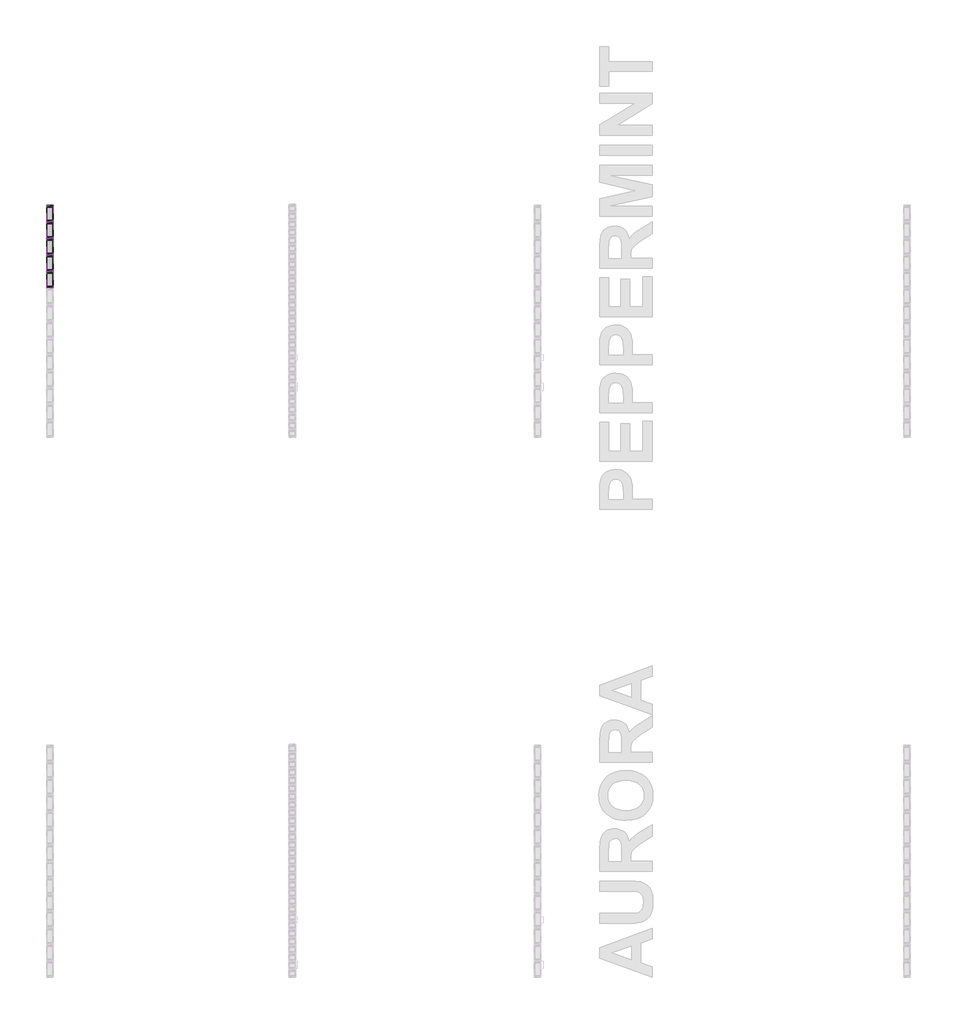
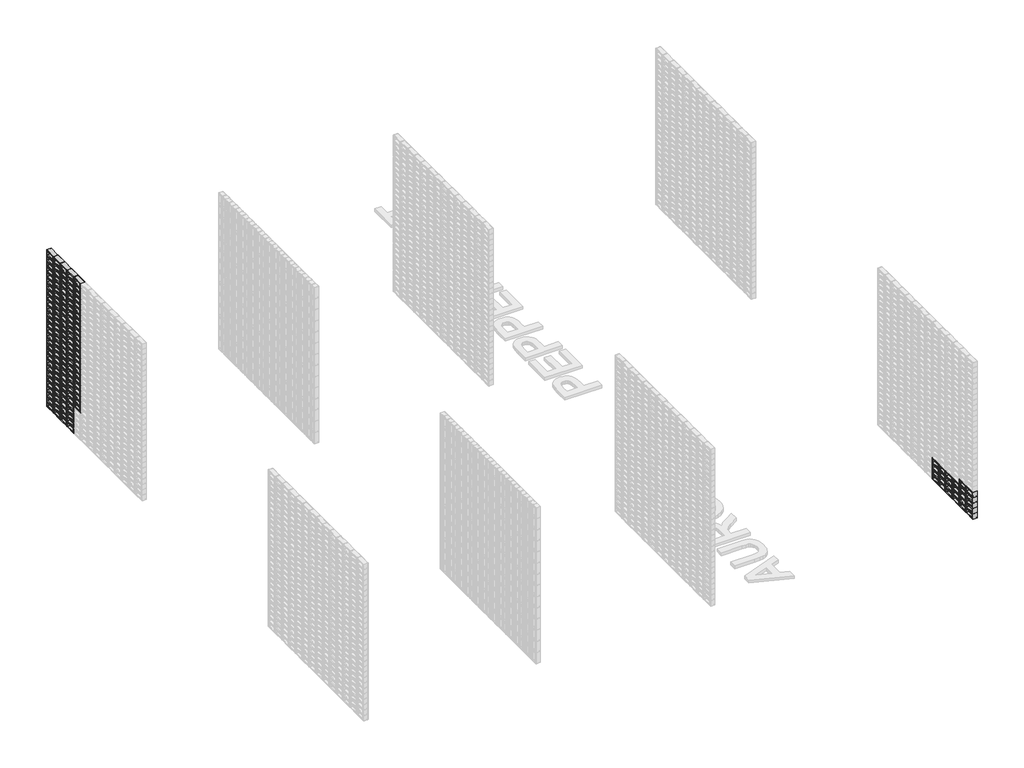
# One storey, part 5 of 59: 166 plates.
"""IFC4 building model written with IfcOpenShell, lengths in millimetres."""

from ifc_helpers import new_model, si_unit, origin, place, context, project, spatial, transform, mapped, element, save
from components import plate_12236348

model = new_model("IFC4")

# Units and contexts
model_context = context("Model", 3, world=origin())
ifc_project = project(units=[si_unit("LENGTHUNIT", "METRE", prefix="MILLI")], contexts=[model_context])

# Site, building, storey
site = spatial("IfcSite", under=ifc_project)
building = spatial("IfcBuilding", under=site)
storey = spatial("IfcBuildingStorey", under=building, Name="PORTOBELLO - SHOWROOM", Elevation=0.0)

# Plates
placement = place(None, origin())
plate_shape = plate_12236348(model_context)
element("IfcPlate", 1, ObjectType="PBSHOP - ON FIRE PEPPERMINT 9X19 (PAINEL CORTINA) : PEPPERMINT", at=placement, inside=storey, context=model_context, shape_type="MappedRepresentation", body=[
    mapped(plate_shape, transform((-33705.5633853, -937.9877273, 470.0), x_axis=(0.0, 1.0, 0.0), y_axis=(-1.0, 0.0, 0.0), z_axis=(0.0, 0.0, 1.0))),
])
element("IfcPlate", 2, ObjectType="PBSHOP - ON FIRE PEPPERMINT 9X19 (PAINEL CORTINA) : PEPPERMINT", at=placement, inside=storey, context=model_context, shape_type="MappedRepresentation", body=[
    mapped(plate_shape, transform((-33705.5633853, -937.9877273, 564.0), x_axis=(0.0, 1.0, 0.0), y_axis=(-1.0, 0.0, 0.0), z_axis=(0.0, 0.0, 1.0))),
])
element("IfcPlate", 3, ObjectType="PBSHOP - ON FIRE PEPPERMINT 9X19 (PAINEL CORTINA) : PEPPERMINT", at=placement, inside=storey, context=model_context, shape_type="MappedRepresentation", body=[
    mapped(plate_shape, transform((-33705.5633853, -937.9877273, 658.0), x_axis=(0.0, 1.0, 0.0), y_axis=(-1.0, 0.0, 0.0), z_axis=(0.0, 0.0, 1.0))),
])
element("IfcPlate", 4, ObjectType="PBSHOP - ON FIRE PEPPERMINT 9X19 (PAINEL CORTINA) : PEPPERMINT", at=placement, inside=storey, context=model_context, shape_type="MappedRepresentation", body=[
    mapped(plate_shape, transform((-33705.5633853, -937.9877273, 752.0), x_axis=(0.0, 1.0, 0.0), y_axis=(-1.0, 0.0, 0.0), z_axis=(0.0, 0.0, 1.0))),
])
element("IfcPlate", 5, ObjectType="PBSHOP - ON FIRE PEPPERMINT 9X19 (PAINEL CORTINA) : PEPPERMINT", at=placement, inside=storey, context=model_context, shape_type="MappedRepresentation", body=[
    mapped(plate_shape, transform((-33705.5633853, -743.9877273, 0.0), x_axis=(0.0, 1.0, 0.0), y_axis=(-1.0, 0.0, 0.0), z_axis=(0.0, 0.0, 1.0))),
])
element("IfcPlate", 6, ObjectType="PBSHOP - ON FIRE PEPPERMINT 9X19 (PAINEL CORTINA) : PEPPERMINT", at=placement, inside=storey, context=model_context, shape_type="MappedRepresentation", body=[
    mapped(plate_shape, transform((-33705.5633853, -743.9877273, 94.0), x_axis=(0.0, 1.0, 0.0), y_axis=(-1.0, 0.0, 0.0), z_axis=(0.0, 0.0, 1.0))),
])
element("IfcPlate", 7, ObjectType="PBSHOP - ON FIRE PEPPERMINT 9X19 (PAINEL CORTINA) : PEPPERMINT", at=placement, inside=storey, context=model_context, shape_type="MappedRepresentation", body=[
    mapped(plate_shape, transform((-33705.5633853, -743.9877273, 188.0), x_axis=(0.0, 1.0, 0.0), y_axis=(-1.0, 0.0, 0.0), z_axis=(0.0, 0.0, 1.0))),
])
element("IfcPlate", 8, ObjectType="PBSHOP - ON FIRE PEPPERMINT 9X19 (PAINEL CORTINA) : PEPPERMINT", at=placement, inside=storey, context=model_context, shape_type="MappedRepresentation", body=[
    mapped(plate_shape, transform((-33705.5633853, -743.9877273, 282.0), x_axis=(0.0, 1.0, 0.0), y_axis=(-1.0, 0.0, 0.0), z_axis=(0.0, 0.0, 1.0))),
])
element("IfcPlate", 9, ObjectType="PBSHOP - ON FIRE PEPPERMINT 9X19 (PAINEL CORTINA) : PEPPERMINT", at=placement, inside=storey, context=model_context, shape_type="MappedRepresentation", body=[
    mapped(plate_shape, transform((-33705.5633853, -743.9877273, 376.0), x_axis=(0.0, 1.0, 0.0), y_axis=(-1.0, 0.0, 0.0), z_axis=(0.0, 0.0, 1.0))),
])
element("IfcPlate", 10, ObjectType="PBSHOP - ON FIRE PEPPERMINT 9X19 (PAINEL CORTINA) : PEPPERMINT", at=placement, inside=storey, context=model_context, shape_type="MappedRepresentation", body=[
    mapped(plate_shape, transform((-33705.5633853, -743.9877273, 470.0), x_axis=(0.0, 1.0, 0.0), y_axis=(-1.0, 0.0, 0.0), z_axis=(0.0, 0.0, 1.0))),
])
element("IfcPlate", 11, ObjectType="PBSHOP - ON FIRE PEPPERMINT 9X19 (PAINEL CORTINA) : PEPPERMINT", at=placement, inside=storey, context=model_context, shape_type="MappedRepresentation", body=[
    mapped(plate_shape, transform((-33705.5633853, -743.9877273, 564.0), x_axis=(0.0, 1.0, 0.0), y_axis=(-1.0, 0.0, 0.0), z_axis=(0.0, 0.0, 1.0))),
])
element("IfcPlate", 12, ObjectType="PBSHOP - ON FIRE PEPPERMINT 9X19 (PAINEL CORTINA) : PEPPERMINT", at=placement, inside=storey, context=model_context, shape_type="MappedRepresentation", body=[
    mapped(plate_shape, transform((-33705.5633853, -743.9877273, 658.0), x_axis=(0.0, 1.0, 0.0), y_axis=(-1.0, 0.0, 0.0), z_axis=(0.0, 0.0, 1.0))),
])
element("IfcPlate", 13, ObjectType="PBSHOP - ON FIRE PEPPERMINT 9X19 (PAINEL CORTINA) : PEPPERMINT", at=placement, inside=storey, context=model_context, shape_type="MappedRepresentation", body=[
    mapped(plate_shape, transform((-33705.5633853, -743.9877273, 752.0), x_axis=(0.0, 1.0, 0.0), y_axis=(-1.0, 0.0, 0.0), z_axis=(0.0, 0.0, 1.0))),
])
element("IfcPlate", 14, ObjectType="PBSHOP - ON FIRE PEPPERMINT 9X19 (PAINEL CORTINA) : PEPPERMINT", at=placement, inside=storey, context=model_context, shape_type="MappedRepresentation", body=[
    mapped(plate_shape, transform((-33705.5633853, -549.9877273, 0.0), x_axis=(0.0, 1.0, 0.0), y_axis=(-1.0, 0.0, 0.0), z_axis=(0.0, 0.0, 1.0))),
])
element("IfcPlate", 15, ObjectType="PBSHOP - ON FIRE PEPPERMINT 9X19 (PAINEL CORTINA) : PEPPERMINT", at=placement, inside=storey, context=model_context, shape_type="MappedRepresentation", body=[
    mapped(plate_shape, transform((-33705.5633853, -549.9877273, 94.0), x_axis=(0.0, 1.0, 0.0), y_axis=(-1.0, 0.0, 0.0), z_axis=(0.0, 0.0, 1.0))),
])
element("IfcPlate", 16, ObjectType="PBSHOP - ON FIRE PEPPERMINT 9X19 (PAINEL CORTINA) : PEPPERMINT", at=placement, inside=storey, context=model_context, shape_type="MappedRepresentation", body=[
    mapped(plate_shape, transform((-33705.5633853, -549.9877273, 188.0), x_axis=(0.0, 1.0, 0.0), y_axis=(-1.0, 0.0, 0.0), z_axis=(0.0, 0.0, 1.0))),
])
element("IfcPlate", 17, ObjectType="PBSHOP - ON FIRE PEPPERMINT 9X19 (PAINEL CORTINA) : PEPPERMINT", at=placement, inside=storey, context=model_context, shape_type="MappedRepresentation", body=[
    mapped(plate_shape, transform((-33705.5633853, -549.9877273, 282.0), x_axis=(0.0, 1.0, 0.0), y_axis=(-1.0, 0.0, 0.0), z_axis=(0.0, 0.0, 1.0))),
])
element("IfcPlate", 18, ObjectType="PBSHOP - ON FIRE PEPPERMINT 9X19 (PAINEL CORTINA) : PEPPERMINT", at=placement, inside=storey, context=model_context, shape_type="MappedRepresentation", body=[
    mapped(plate_shape, transform((-33705.5633853, -549.9877273, 376.0), x_axis=(0.0, 1.0, 0.0), y_axis=(-1.0, 0.0, 0.0), z_axis=(0.0, 0.0, 1.0))),
])
element("IfcPlate", 19, ObjectType="PBSHOP - ON FIRE PEPPERMINT 9X19 (PAINEL CORTINA) : PEPPERMINT", at=placement, inside=storey, context=model_context, shape_type="MappedRepresentation", body=[
    mapped(plate_shape, transform((-33705.5633853, -549.9877273, 470.0), x_axis=(0.0, 1.0, 0.0), y_axis=(-1.0, 0.0, 0.0), z_axis=(0.0, 0.0, 1.0))),
])
element("IfcPlate", 20, ObjectType="PBSHOP - ON FIRE PEPPERMINT 9X19 (PAINEL CORTINA) : PEPPERMINT", at=placement, inside=storey, context=model_context, shape_type="MappedRepresentation", body=[
    mapped(plate_shape, transform((-33705.5633853, -549.9877273, 564.0), x_axis=(0.0, 1.0, 0.0), y_axis=(-1.0, 0.0, 0.0), z_axis=(0.0, 0.0, 1.0))),
])
element("IfcPlate", 21, ObjectType="PBSHOP - ON FIRE PEPPERMINT 9X19 (PAINEL CORTINA) : PEPPERMINT", at=placement, inside=storey, context=model_context, shape_type="MappedRepresentation", body=[
    mapped(plate_shape, transform((-33705.5633853, -549.9877273, 658.0), x_axis=(0.0, 1.0, 0.0), y_axis=(-1.0, 0.0, 0.0), z_axis=(0.0, 0.0, 1.0))),
])
element("IfcPlate", 22, ObjectType="PBSHOP - ON FIRE PEPPERMINT 9X19 (PAINEL CORTINA) : PEPPERMINT", at=placement, inside=storey, context=model_context, shape_type="MappedRepresentation", body=[
    mapped(plate_shape, transform((-33705.5633853, -549.9877273, 752.0), x_axis=(0.0, 1.0, 0.0), y_axis=(-1.0, 0.0, 0.0), z_axis=(0.0, 0.0, 1.0))),
])
element("IfcPlate", 23, ObjectType="PBSHOP - ON FIRE PEPPERMINT 9X19 (PAINEL CORTINA) : PEPPERMINT", at=placement, inside=storey, context=model_context, shape_type="MappedRepresentation", body=[
    mapped(plate_shape, transform((-33705.5633853, -355.9877273, 0.0), x_axis=(0.0, 1.0, 0.0), y_axis=(-1.0, 0.0, 0.0), z_axis=(0.0, 0.0, 1.0))),
])
element("IfcPlate", 24, ObjectType="PBSHOP - ON FIRE PEPPERMINT 9X19 (PAINEL CORTINA) : PEPPERMINT", at=placement, inside=storey, context=model_context, shape_type="MappedRepresentation", body=[
    mapped(plate_shape, transform((-33705.5633853, -355.9877273, 94.0), x_axis=(0.0, 1.0, 0.0), y_axis=(-1.0, 0.0, 0.0), z_axis=(0.0, 0.0, 1.0))),
])
element("IfcPlate", 25, ObjectType="PBSHOP - ON FIRE PEPPERMINT 9X19 (PAINEL CORTINA) : PEPPERMINT", at=placement, inside=storey, context=model_context, shape_type="MappedRepresentation", body=[
    mapped(plate_shape, transform((-33705.5633853, -355.9877273, 188.0), x_axis=(0.0, 1.0, 0.0), y_axis=(-1.0, 0.0, 0.0), z_axis=(0.0, 0.0, 1.0))),
])
element("IfcPlate", 26, ObjectType="PBSHOP - ON FIRE PEPPERMINT 9X19 (PAINEL CORTINA) : PEPPERMINT", at=placement, inside=storey, context=model_context, shape_type="MappedRepresentation", body=[
    mapped(plate_shape, transform((-33705.5633853, -355.9877273, 282.0), x_axis=(0.0, 1.0, 0.0), y_axis=(-1.0, 0.0, 0.0), z_axis=(0.0, 0.0, 1.0))),
])
element("IfcPlate", 27, ObjectType="PBSHOP - ON FIRE PEPPERMINT 9X19 (PAINEL CORTINA) : PEPPERMINT", at=placement, inside=storey, context=model_context, shape_type="MappedRepresentation", body=[
    mapped(plate_shape, transform((-33705.5633853, -355.9877273, 376.0), x_axis=(0.0, 1.0, 0.0), y_axis=(-1.0, 0.0, 0.0), z_axis=(0.0, 0.0, 1.0))),
])
element("IfcPlate", 28, ObjectType="PBSHOP - ON FIRE PEPPERMINT 9X19 (PAINEL CORTINA) : PEPPERMINT", at=placement, inside=storey, context=model_context, shape_type="MappedRepresentation", body=[
    mapped(plate_shape, transform((-33705.5633853, -355.9877273, 470.0), x_axis=(0.0, 1.0, 0.0), y_axis=(-1.0, 0.0, 0.0), z_axis=(0.0, 0.0, 1.0))),
])
element("IfcPlate", 29, ObjectType="PBSHOP - ON FIRE PEPPERMINT 9X19 (PAINEL CORTINA) : PEPPERMINT", at=placement, inside=storey, context=model_context, shape_type="MappedRepresentation", body=[
    mapped(plate_shape, transform((-33705.5633853, -355.9877273, 564.0), x_axis=(0.0, 1.0, 0.0), y_axis=(-1.0, 0.0, 0.0), z_axis=(0.0, 0.0, 1.0))),
])
element("IfcPlate", 30, ObjectType="PBSHOP - ON FIRE PEPPERMINT 9X19 (PAINEL CORTINA) : PEPPERMINT", at=placement, inside=storey, context=model_context, shape_type="MappedRepresentation", body=[
    mapped(plate_shape, transform((-33705.5633853, -355.9877273, 658.0), x_axis=(0.0, 1.0, 0.0), y_axis=(-1.0, 0.0, 0.0), z_axis=(0.0, 0.0, 1.0))),
])
element("IfcPlate", 31, ObjectType="PBSHOP - ON FIRE PEPPERMINT 9X19 (PAINEL CORTINA) : PEPPERMINT", at=placement, inside=storey, context=model_context, shape_type="MappedRepresentation", body=[
    mapped(plate_shape, transform((-33705.5633853, -355.9877273, 752.0), x_axis=(0.0, 1.0, 0.0), y_axis=(-1.0, 0.0, 0.0), z_axis=(0.0, 0.0, 1.0))),
])
element("IfcPlate", 32, ObjectType="PBSHOP - ON FIRE PEPPERMINT 9X19 (PAINEL CORTINA) : PEPPERMINT", at=placement, inside=storey, context=model_context, shape_type="MappedRepresentation", body=[
    mapped(plate_shape, transform((-33705.5633853, -937.9877273, 846.0), x_axis=(0.0, 1.0, 0.0), y_axis=(-1.0, 0.0, 0.0), z_axis=(0.0, 0.0, 1.0))),
])
element("IfcPlate", 33, ObjectType="PBSHOP - ON FIRE PEPPERMINT 9X19 (PAINEL CORTINA) : PEPPERMINT", at=placement, inside=storey, context=model_context, shape_type="MappedRepresentation", body=[
    mapped(plate_shape, transform((-33705.5633853, -743.9877273, 846.0), x_axis=(0.0, 1.0, 0.0), y_axis=(-1.0, 0.0, 0.0), z_axis=(0.0, 0.0, 1.0))),
])
element("IfcPlate", 34, ObjectType="PBSHOP - ON FIRE PEPPERMINT 9X19 (PAINEL CORTINA) : PEPPERMINT", at=placement, inside=storey, context=model_context, shape_type="MappedRepresentation", body=[
    mapped(plate_shape, transform((-33705.5633853, -549.9877273, 846.0), x_axis=(0.0, 1.0, 0.0), y_axis=(-1.0, 0.0, 0.0), z_axis=(0.0, 0.0, 1.0))),
])
element("IfcPlate", 35, ObjectType="PBSHOP - ON FIRE PEPPERMINT 9X19 (PAINEL CORTINA) : PEPPERMINT", at=placement, inside=storey, context=model_context, shape_type="MappedRepresentation", body=[
    mapped(plate_shape, transform((-33705.5633853, -355.9877273, 846.0), x_axis=(0.0, 1.0, 0.0), y_axis=(-1.0, 0.0, 0.0), z_axis=(0.0, 0.0, 1.0))),
])
element("IfcPlate", 36, ObjectType="PBSHOP - ON FIRE PEPPERMINT 9X19 (PAINEL CORTINA) : PEPPERMINT", at=placement, inside=storey, context=model_context, shape_type="MappedRepresentation", body=[
    mapped(plate_shape, transform((-33705.5633853, -937.9877273, 940.0), x_axis=(0.0, 1.0, 0.0), y_axis=(-1.0, 0.0, 0.0), z_axis=(0.0, 0.0, 1.0))),
])
element("IfcPlate", 37, ObjectType="PBSHOP - ON FIRE PEPPERMINT 9X19 (PAINEL CORTINA) : PEPPERMINT", at=placement, inside=storey, context=model_context, shape_type="MappedRepresentation", body=[
    mapped(plate_shape, transform((-33705.5633853, -743.9877273, 940.0), x_axis=(0.0, 1.0, 0.0), y_axis=(-1.0, 0.0, 0.0), z_axis=(0.0, 0.0, 1.0))),
])
element("IfcPlate", 38, ObjectType="PBSHOP - ON FIRE PEPPERMINT 9X19 (PAINEL CORTINA) : PEPPERMINT", at=placement, inside=storey, context=model_context, shape_type="MappedRepresentation", body=[
    mapped(plate_shape, transform((-33705.5633853, -549.9877273, 940.0), x_axis=(0.0, 1.0, 0.0), y_axis=(-1.0, 0.0, 0.0), z_axis=(0.0, 0.0, 1.0))),
])
element("IfcPlate", 39, ObjectType="PBSHOP - ON FIRE PEPPERMINT 9X19 (PAINEL CORTINA) : PEPPERMINT", at=placement, inside=storey, context=model_context, shape_type="MappedRepresentation", body=[
    mapped(plate_shape, transform((-33705.5633853, -355.9877273, 940.0), x_axis=(0.0, 1.0, 0.0), y_axis=(-1.0, 0.0, 0.0), z_axis=(0.0, 0.0, 1.0))),
])
element("IfcPlate", 40, ObjectType="PBSHOP - ON FIRE PEPPERMINT 9X19 (PAINEL CORTINA) : PEPPERMINT", at=placement, inside=storey, context=model_context, shape_type="MappedRepresentation", body=[
    mapped(plate_shape, transform((-33705.5633853, -937.9877273, 1034.0), x_axis=(0.0, 1.0, 0.0), y_axis=(-1.0, 0.0, 0.0), z_axis=(0.0, 0.0, 1.0))),
])
element("IfcPlate", 41, ObjectType="PBSHOP - ON FIRE PEPPERMINT 9X19 (PAINEL CORTINA) : PEPPERMINT", at=placement, inside=storey, context=model_context, shape_type="MappedRepresentation", body=[
    mapped(plate_shape, transform((-33705.5633853, -743.9877273, 1034.0), x_axis=(0.0, 1.0, 0.0), y_axis=(-1.0, 0.0, 0.0), z_axis=(0.0, 0.0, 1.0))),
])
element("IfcPlate", 42, ObjectType="PBSHOP - ON FIRE PEPPERMINT 9X19 (PAINEL CORTINA) : PEPPERMINT", at=placement, inside=storey, context=model_context, shape_type="MappedRepresentation", body=[
    mapped(plate_shape, transform((-33705.5633853, -549.9877273, 1034.0), x_axis=(0.0, 1.0, 0.0), y_axis=(-1.0, 0.0, 0.0), z_axis=(0.0, 0.0, 1.0))),
])
element("IfcPlate", 43, ObjectType="PBSHOP - ON FIRE PEPPERMINT 9X19 (PAINEL CORTINA) : PEPPERMINT", at=placement, inside=storey, context=model_context, shape_type="MappedRepresentation", body=[
    mapped(plate_shape, transform((-33705.5633853, -355.9877273, 1034.0), x_axis=(0.0, 1.0, 0.0), y_axis=(-1.0, 0.0, 0.0), z_axis=(0.0, 0.0, 1.0))),
])
element("IfcPlate", 44, ObjectType="PBSHOP - ON FIRE PEPPERMINT 9X19 (PAINEL CORTINA) : PEPPERMINT", at=placement, inside=storey, context=model_context, shape_type="MappedRepresentation", body=[
    mapped(plate_shape, transform((-33705.5633853, -937.9877273, 1128.0), x_axis=(0.0, 1.0, 0.0), y_axis=(-1.0, 0.0, 0.0), z_axis=(0.0, 0.0, 1.0))),
])
element("IfcPlate", 45, ObjectType="PBSHOP - ON FIRE PEPPERMINT 9X19 (PAINEL CORTINA) : PEPPERMINT", at=placement, inside=storey, context=model_context, shape_type="MappedRepresentation", body=[
    mapped(plate_shape, transform((-33705.5633853, -743.9877273, 1128.0), x_axis=(0.0, 1.0, 0.0), y_axis=(-1.0, 0.0, 0.0), z_axis=(0.0, 0.0, 1.0))),
])
element("IfcPlate", 46, ObjectType="PBSHOP - ON FIRE PEPPERMINT 9X19 (PAINEL CORTINA) : PEPPERMINT", at=placement, inside=storey, context=model_context, shape_type="MappedRepresentation", body=[
    mapped(plate_shape, transform((-33705.5633853, -549.9877273, 1128.0), x_axis=(0.0, 1.0, 0.0), y_axis=(-1.0, 0.0, 0.0), z_axis=(0.0, 0.0, 1.0))),
])
element("IfcPlate", 47, ObjectType="PBSHOP - ON FIRE PEPPERMINT 9X19 (PAINEL CORTINA) : PEPPERMINT", at=placement, inside=storey, context=model_context, shape_type="MappedRepresentation", body=[
    mapped(plate_shape, transform((-33705.5633853, -355.9877273, 1128.0), x_axis=(0.0, 1.0, 0.0), y_axis=(-1.0, 0.0, 0.0), z_axis=(0.0, 0.0, 1.0))),
])
element("IfcPlate", 48, ObjectType="PBSHOP - ON FIRE PEPPERMINT 9X19 (PAINEL CORTINA) : PEPPERMINT", at=placement, inside=storey, context=model_context, shape_type="MappedRepresentation", body=[
    mapped(plate_shape, transform((-33705.5633853, -937.9877273, 1222.0), x_axis=(0.0, 1.0, 0.0), y_axis=(-1.0, 0.0, 0.0), z_axis=(0.0, 0.0, 1.0))),
])
element("IfcPlate", 49, ObjectType="PBSHOP - ON FIRE PEPPERMINT 9X19 (PAINEL CORTINA) : PEPPERMINT", at=placement, inside=storey, context=model_context, shape_type="MappedRepresentation", body=[
    mapped(plate_shape, transform((-33705.5633853, -743.9877273, 1222.0), x_axis=(0.0, 1.0, 0.0), y_axis=(-1.0, 0.0, 0.0), z_axis=(0.0, 0.0, 1.0))),
])
element("IfcPlate", 50, ObjectType="PBSHOP - ON FIRE PEPPERMINT 9X19 (PAINEL CORTINA) : PEPPERMINT", at=placement, inside=storey, context=model_context, shape_type="MappedRepresentation", body=[
    mapped(plate_shape, transform((-33705.5633853, -549.9877273, 1222.0), x_axis=(0.0, 1.0, 0.0), y_axis=(-1.0, 0.0, 0.0), z_axis=(0.0, 0.0, 1.0))),
])
element("IfcPlate", 51, ObjectType="PBSHOP - ON FIRE PEPPERMINT 9X19 (PAINEL CORTINA) : PEPPERMINT", at=placement, inside=storey, context=model_context, shape_type="MappedRepresentation", body=[
    mapped(plate_shape, transform((-33705.5633853, -355.9877273, 1222.0), x_axis=(0.0, 1.0, 0.0), y_axis=(-1.0, 0.0, 0.0), z_axis=(0.0, 0.0, 1.0))),
])
element("IfcPlate", 52, ObjectType="PBSHOP - ON FIRE PEPPERMINT 9X19 (PAINEL CORTINA) : PEPPERMINT", at=placement, inside=storey, context=model_context, shape_type="MappedRepresentation", body=[
    mapped(plate_shape, transform((-33705.5633853, -937.9877273, 1316.0), x_axis=(0.0, 1.0, 0.0), y_axis=(-1.0, 0.0, 0.0), z_axis=(0.0, 0.0, 1.0))),
])
element("IfcPlate", 53, ObjectType="PBSHOP - ON FIRE PEPPERMINT 9X19 (PAINEL CORTINA) : PEPPERMINT", at=placement, inside=storey, context=model_context, shape_type="MappedRepresentation", body=[
    mapped(plate_shape, transform((-33705.5633853, -743.9877273, 1316.0), x_axis=(0.0, 1.0, 0.0), y_axis=(-1.0, 0.0, 0.0), z_axis=(0.0, 0.0, 1.0))),
])
element("IfcPlate", 54, ObjectType="PBSHOP - ON FIRE PEPPERMINT 9X19 (PAINEL CORTINA) : PEPPERMINT", at=placement, inside=storey, context=model_context, shape_type="MappedRepresentation", body=[
    mapped(plate_shape, transform((-33705.5633853, -549.9877273, 1316.0), x_axis=(0.0, 1.0, 0.0), y_axis=(-1.0, 0.0, 0.0), z_axis=(0.0, 0.0, 1.0))),
])
element("IfcPlate", 55, ObjectType="PBSHOP - ON FIRE PEPPERMINT 9X19 (PAINEL CORTINA) : PEPPERMINT", at=placement, inside=storey, context=model_context, shape_type="MappedRepresentation", body=[
    mapped(plate_shape, transform((-33705.5633853, -355.9877273, 1316.0), x_axis=(0.0, 1.0, 0.0), y_axis=(-1.0, 0.0, 0.0), z_axis=(0.0, 0.0, 1.0))),
])
element("IfcPlate", 56, ObjectType="PBSHOP - ON FIRE PEPPERMINT 9X19 (PAINEL CORTINA) : PEPPERMINT", at=placement, inside=storey, context=model_context, shape_type="MappedRepresentation", body=[
    mapped(plate_shape, transform((-33705.5633853, -937.9877273, 1410.0), x_axis=(0.0, 1.0, 0.0), y_axis=(-1.0, 0.0, 0.0), z_axis=(0.0, 0.0, 1.0))),
])
element("IfcPlate", 57, ObjectType="PBSHOP - ON FIRE PEPPERMINT 9X19 (PAINEL CORTINA) : PEPPERMINT", at=placement, inside=storey, context=model_context, shape_type="MappedRepresentation", body=[
    mapped(plate_shape, transform((-33705.5633853, -743.9877273, 1410.0), x_axis=(0.0, 1.0, 0.0), y_axis=(-1.0, 0.0, 0.0), z_axis=(0.0, 0.0, 1.0))),
])
element("IfcPlate", 58, ObjectType="PBSHOP - ON FIRE PEPPERMINT 9X19 (PAINEL CORTINA) : PEPPERMINT", at=placement, inside=storey, context=model_context, shape_type="MappedRepresentation", body=[
    mapped(plate_shape, transform((-33705.5633853, -549.9877273, 1410.0), x_axis=(0.0, 1.0, 0.0), y_axis=(-1.0, 0.0, 0.0), z_axis=(0.0, 0.0, 1.0))),
])
element("IfcPlate", 59, ObjectType="PBSHOP - ON FIRE PEPPERMINT 9X19 (PAINEL CORTINA) : PEPPERMINT", at=placement, inside=storey, context=model_context, shape_type="MappedRepresentation", body=[
    mapped(plate_shape, transform((-33705.5633853, -355.9877273, 1410.0), x_axis=(0.0, 1.0, 0.0), y_axis=(-1.0, 0.0, 0.0), z_axis=(0.0, 0.0, 1.0))),
])
element("IfcPlate", 60, ObjectType="PBSHOP - ON FIRE PEPPERMINT 9X19 (PAINEL CORTINA) : PEPPERMINT", at=placement, inside=storey, context=model_context, shape_type="MappedRepresentation", body=[
    mapped(plate_shape, transform((-33705.5633853, -937.9877273, 1504.0), x_axis=(0.0, 1.0, 0.0), y_axis=(-1.0, 0.0, 0.0), z_axis=(0.0, 0.0, 1.0))),
])
element("IfcPlate", 61, ObjectType="PBSHOP - ON FIRE PEPPERMINT 9X19 (PAINEL CORTINA) : PEPPERMINT", at=placement, inside=storey, context=model_context, shape_type="MappedRepresentation", body=[
    mapped(plate_shape, transform((-33705.5633853, -743.9877273, 1504.0), x_axis=(0.0, 1.0, 0.0), y_axis=(-1.0, 0.0, 0.0), z_axis=(0.0, 0.0, 1.0))),
])
element("IfcPlate", 62, ObjectType="PBSHOP - ON FIRE PEPPERMINT 9X19 (PAINEL CORTINA) : PEPPERMINT", at=placement, inside=storey, context=model_context, shape_type="MappedRepresentation", body=[
    mapped(plate_shape, transform((-33705.5633853, -549.9877273, 1504.0), x_axis=(0.0, 1.0, 0.0), y_axis=(-1.0, 0.0, 0.0), z_axis=(0.0, 0.0, 1.0))),
])
element("IfcPlate", 63, ObjectType="PBSHOP - ON FIRE PEPPERMINT 9X19 (PAINEL CORTINA) : PEPPERMINT", at=placement, inside=storey, context=model_context, shape_type="MappedRepresentation", body=[
    mapped(plate_shape, transform((-33705.5633853, -355.9877273, 1504.0), x_axis=(0.0, 1.0, 0.0), y_axis=(-1.0, 0.0, 0.0), z_axis=(0.0, 0.0, 1.0))),
])
element("IfcPlate", 64, ObjectType="PBSHOP - ON FIRE PEPPERMINT 9X19 (PAINEL CORTINA) : PEPPERMINT", at=placement, inside=storey, context=model_context, shape_type="MappedRepresentation", body=[
    mapped(plate_shape, transform((-33705.5633853, -937.9877273, 1598.0), x_axis=(0.0, 1.0, 0.0), y_axis=(-1.0, 0.0, 0.0), z_axis=(0.0, 0.0, 1.0))),
])
element("IfcPlate", 65, ObjectType="PBSHOP - ON FIRE PEPPERMINT 9X19 (PAINEL CORTINA) : PEPPERMINT", at=placement, inside=storey, context=model_context, shape_type="MappedRepresentation", body=[
    mapped(plate_shape, transform((-33705.5633853, -743.9877273, 1598.0), x_axis=(0.0, 1.0, 0.0), y_axis=(-1.0, 0.0, 0.0), z_axis=(0.0, 0.0, 1.0))),
])
element("IfcPlate", 66, ObjectType="PBSHOP - ON FIRE PEPPERMINT 9X19 (PAINEL CORTINA) : PEPPERMINT", at=placement, inside=storey, context=model_context, shape_type="MappedRepresentation", body=[
    mapped(plate_shape, transform((-33705.5633853, -549.9877273, 1598.0), x_axis=(0.0, 1.0, 0.0), y_axis=(-1.0, 0.0, 0.0), z_axis=(0.0, 0.0, 1.0))),
])
element("IfcPlate", 67, ObjectType="PBSHOP - ON FIRE PEPPERMINT 9X19 (PAINEL CORTINA) : PEPPERMINT", at=placement, inside=storey, context=model_context, shape_type="MappedRepresentation", body=[
    mapped(plate_shape, transform((-33705.5633853, -355.9877273, 1598.0), x_axis=(0.0, 1.0, 0.0), y_axis=(-1.0, 0.0, 0.0), z_axis=(0.0, 0.0, 1.0))),
])
element("IfcPlate", 68, ObjectType="PBSHOP - ON FIRE PEPPERMINT 9X19 (PAINEL CORTINA) : PEPPERMINT", at=placement, inside=storey, context=model_context, shape_type="MappedRepresentation", body=[
    mapped(plate_shape, transform((-33705.5633853, -937.9877273, 1692.0), x_axis=(0.0, 1.0, 0.0), y_axis=(-1.0, 0.0, 0.0), z_axis=(0.0, 0.0, 1.0))),
])
element("IfcPlate", 69, ObjectType="PBSHOP - ON FIRE PEPPERMINT 9X19 (PAINEL CORTINA) : PEPPERMINT", at=placement, inside=storey, context=model_context, shape_type="MappedRepresentation", body=[
    mapped(plate_shape, transform((-33705.5633853, -743.9877273, 1692.0), x_axis=(0.0, 1.0, 0.0), y_axis=(-1.0, 0.0, 0.0), z_axis=(0.0, 0.0, 1.0))),
])
element("IfcPlate", 70, ObjectType="PBSHOP - ON FIRE PEPPERMINT 9X19 (PAINEL CORTINA) : PEPPERMINT", at=placement, inside=storey, context=model_context, shape_type="MappedRepresentation", body=[
    mapped(plate_shape, transform((-33705.5633853, -549.9877273, 1692.0), x_axis=(0.0, 1.0, 0.0), y_axis=(-1.0, 0.0, 0.0), z_axis=(0.0, 0.0, 1.0))),
])
element("IfcPlate", 71, ObjectType="PBSHOP - ON FIRE PEPPERMINT 9X19 (PAINEL CORTINA) : PEPPERMINT", at=placement, inside=storey, context=model_context, shape_type="MappedRepresentation", body=[
    mapped(plate_shape, transform((-33705.5633853, -355.9877273, 1692.0), x_axis=(0.0, 1.0, 0.0), y_axis=(-1.0, 0.0, 0.0), z_axis=(0.0, 0.0, 1.0))),
])
element("IfcPlate", 72, ObjectType="PBSHOP - ON FIRE PEPPERMINT 9X19 (PAINEL CORTINA) : PEPPERMINT", at=placement, inside=storey, context=model_context, shape_type="MappedRepresentation", body=[
    mapped(plate_shape, transform((-33705.5633853, -937.9877273, 1786.0), x_axis=(0.0, 1.0, 0.0), y_axis=(-1.0, 0.0, 0.0), z_axis=(0.0, 0.0, 1.0))),
])
element("IfcPlate", 73, ObjectType="PBSHOP - ON FIRE PEPPERMINT 9X19 (PAINEL CORTINA) : PEPPERMINT", at=placement, inside=storey, context=model_context, shape_type="MappedRepresentation", body=[
    mapped(plate_shape, transform((-33705.5633853, -743.9877273, 1786.0), x_axis=(0.0, 1.0, 0.0), y_axis=(-1.0, 0.0, 0.0), z_axis=(0.0, 0.0, 1.0))),
])
element("IfcPlate", 74, ObjectType="PBSHOP - ON FIRE PEPPERMINT 9X19 (PAINEL CORTINA) : PEPPERMINT", at=placement, inside=storey, context=model_context, shape_type="MappedRepresentation", body=[
    mapped(plate_shape, transform((-33705.5633853, -549.9877273, 1786.0), x_axis=(0.0, 1.0, 0.0), y_axis=(-1.0, 0.0, 0.0), z_axis=(0.0, 0.0, 1.0))),
])
element("IfcPlate", 75, ObjectType="PBSHOP - ON FIRE PEPPERMINT 9X19 (PAINEL CORTINA) : PEPPERMINT", at=placement, inside=storey, context=model_context, shape_type="MappedRepresentation", body=[
    mapped(plate_shape, transform((-33705.5633853, -355.9877273, 1786.0), x_axis=(0.0, 1.0, 0.0), y_axis=(-1.0, 0.0, 0.0), z_axis=(0.0, 0.0, 1.0))),
])
element("IfcPlate", 76, ObjectType="PBSHOP - ON FIRE PEPPERMINT 9X19 (PAINEL CORTINA) : PEPPERMINT", at=placement, inside=storey, context=model_context, shape_type="MappedRepresentation", body=[
    mapped(plate_shape, transform((-33705.5633853, -937.9877273, 1880.0), x_axis=(0.0, 1.0, 0.0), y_axis=(-1.0, 0.0, 0.0), z_axis=(0.0, 0.0, 1.0))),
])
element("IfcPlate", 77, ObjectType="PBSHOP - ON FIRE PEPPERMINT 9X19 (PAINEL CORTINA) : PEPPERMINT", at=placement, inside=storey, context=model_context, shape_type="MappedRepresentation", body=[
    mapped(plate_shape, transform((-33705.5633853, -743.9877273, 1880.0), x_axis=(0.0, 1.0, 0.0), y_axis=(-1.0, 0.0, 0.0), z_axis=(0.0, 0.0, 1.0))),
])
element("IfcPlate", 78, ObjectType="PBSHOP - ON FIRE PEPPERMINT 9X19 (PAINEL CORTINA) : PEPPERMINT", at=placement, inside=storey, context=model_context, shape_type="MappedRepresentation", body=[
    mapped(plate_shape, transform((-33705.5633853, -549.9877273, 1880.0), x_axis=(0.0, 1.0, 0.0), y_axis=(-1.0, 0.0, 0.0), z_axis=(0.0, 0.0, 1.0))),
])
element("IfcPlate", 79, ObjectType="PBSHOP - ON FIRE PEPPERMINT 9X19 (PAINEL CORTINA) : PEPPERMINT", at=placement, inside=storey, context=model_context, shape_type="MappedRepresentation", body=[
    mapped(plate_shape, transform((-33705.5633853, -355.9877273, 1880.0), x_axis=(0.0, 1.0, 0.0), y_axis=(-1.0, 0.0, 0.0), z_axis=(0.0, 0.0, 1.0))),
])
element("IfcPlate", 80, ObjectType="PBSHOP - ON FIRE PEPPERMINT 9X19 (PAINEL CORTINA) : PEPPERMINT", at=placement, inside=storey, context=model_context, shape_type="MappedRepresentation", body=[
    mapped(plate_shape, transform((-33705.5633853, -937.9877273, 1974.0), x_axis=(0.0, 1.0, 0.0), y_axis=(-1.0, 0.0, 0.0), z_axis=(0.0, 0.0, 1.0))),
])
element("IfcPlate", 81, ObjectType="PBSHOP - ON FIRE PEPPERMINT 9X19 (PAINEL CORTINA) : PEPPERMINT", at=placement, inside=storey, context=model_context, shape_type="MappedRepresentation", body=[
    mapped(plate_shape, transform((-33705.5633853, -743.9877273, 1974.0), x_axis=(0.0, 1.0, 0.0), y_axis=(-1.0, 0.0, 0.0), z_axis=(0.0, 0.0, 1.0))),
])
element("IfcPlate", 82, ObjectType="PBSHOP - ON FIRE PEPPERMINT 9X19 (PAINEL CORTINA) : PEPPERMINT", at=placement, inside=storey, context=model_context, shape_type="MappedRepresentation", body=[
    mapped(plate_shape, transform((-33705.5633853, -549.9877273, 1974.0), x_axis=(0.0, 1.0, 0.0), y_axis=(-1.0, 0.0, 0.0), z_axis=(0.0, 0.0, 1.0))),
])
element("IfcPlate", 83, ObjectType="PBSHOP - ON FIRE PEPPERMINT 9X19 (PAINEL CORTINA) : PEPPERMINT", at=placement, inside=storey, context=model_context, shape_type="MappedRepresentation", body=[
    mapped(plate_shape, transform((-33705.5633853, -355.9877273, 1974.0), x_axis=(0.0, 1.0, 0.0), y_axis=(-1.0, 0.0, 0.0), z_axis=(0.0, 0.0, 1.0))),
])
element("IfcPlate", 84, ObjectType="PBSHOP - ON FIRE PEPPERMINT 9X19 (PAINEL CORTINA) : PEPPERMINT", at=placement, inside=storey, context=model_context, shape_type="MappedRepresentation", body=[
    mapped(plate_shape, transform((-33705.5633853, -937.9877273, 2068.0), x_axis=(0.0, 1.0, 0.0), y_axis=(-1.0, 0.0, 0.0), z_axis=(0.0, 0.0, 1.0))),
])
element("IfcPlate", 85, ObjectType="PBSHOP - ON FIRE PEPPERMINT 9X19 (PAINEL CORTINA) : PEPPERMINT", at=placement, inside=storey, context=model_context, shape_type="MappedRepresentation", body=[
    mapped(plate_shape, transform((-33705.5633853, -743.9877273, 2068.0), x_axis=(0.0, 1.0, 0.0), y_axis=(-1.0, 0.0, 0.0), z_axis=(0.0, 0.0, 1.0))),
])
element("IfcPlate", 86, ObjectType="PBSHOP - ON FIRE PEPPERMINT 9X19 (PAINEL CORTINA) : PEPPERMINT", at=placement, inside=storey, context=model_context, shape_type="MappedRepresentation", body=[
    mapped(plate_shape, transform((-33705.5633853, -549.9877273, 2068.0), x_axis=(0.0, 1.0, 0.0), y_axis=(-1.0, 0.0, 0.0), z_axis=(0.0, 0.0, 1.0))),
])
element("IfcPlate", 87, ObjectType="PBSHOP - ON FIRE PEPPERMINT 9X19 (PAINEL CORTINA) : PEPPERMINT", at=placement, inside=storey, context=model_context, shape_type="MappedRepresentation", body=[
    mapped(plate_shape, transform((-33705.5633853, -355.9877273, 2068.0), x_axis=(0.0, 1.0, 0.0), y_axis=(-1.0, 0.0, 0.0), z_axis=(0.0, 0.0, 1.0))),
])
element("IfcPlate", 88, ObjectType="PBSHOP - ON FIRE PEPPERMINT 9X19 (PAINEL CORTINA) : PEPPERMINT", at=placement, inside=storey, context=model_context, shape_type="MappedRepresentation", body=[
    mapped(plate_shape, transform((-33705.5633853, -937.9877273, 2162.0), x_axis=(0.0, 1.0, 0.0), y_axis=(-1.0, 0.0, 0.0), z_axis=(0.0, 0.0, 1.0))),
])
element("IfcPlate", 89, ObjectType="PBSHOP - ON FIRE PEPPERMINT 9X19 (PAINEL CORTINA) : PEPPERMINT", at=placement, inside=storey, context=model_context, shape_type="MappedRepresentation", body=[
    mapped(plate_shape, transform((-33705.5633853, -743.9877273, 2162.0), x_axis=(0.0, 1.0, 0.0), y_axis=(-1.0, 0.0, 0.0), z_axis=(0.0, 0.0, 1.0))),
])
element("IfcPlate", 90, ObjectType="PBSHOP - ON FIRE PEPPERMINT 9X19 (PAINEL CORTINA) : PEPPERMINT", at=placement, inside=storey, context=model_context, shape_type="MappedRepresentation", body=[
    mapped(plate_shape, transform((-33705.5633853, -549.9877273, 2162.0), x_axis=(0.0, 1.0, 0.0), y_axis=(-1.0, 0.0, 0.0), z_axis=(0.0, 0.0, 1.0))),
])
element("IfcPlate", 91, ObjectType="PBSHOP - ON FIRE PEPPERMINT 9X19 (PAINEL CORTINA) : PEPPERMINT", at=placement, inside=storey, context=model_context, shape_type="MappedRepresentation", body=[
    mapped(plate_shape, transform((-33705.5633853, -355.9877273, 2162.0), x_axis=(0.0, 1.0, 0.0), y_axis=(-1.0, 0.0, 0.0), z_axis=(0.0, 0.0, 1.0))),
])
element("IfcPlate", 92, ObjectType="PBSHOP - ON FIRE PEPPERMINT 9X19 (PAINEL CORTINA) : PEPPERMINT", at=placement, inside=storey, context=model_context, shape_type="MappedRepresentation", body=[
    mapped(plate_shape, transform((-33705.5633853, -937.9877273, 2256.0), x_axis=(0.0, 1.0, 0.0), y_axis=(-1.0, 0.0, 0.0), z_axis=(0.0, 0.0, 1.0))),
])
element("IfcPlate", 93, ObjectType="PBSHOP - ON FIRE PEPPERMINT 9X19 (PAINEL CORTINA) : PEPPERMINT", at=placement, inside=storey, context=model_context, shape_type="MappedRepresentation", body=[
    mapped(plate_shape, transform((-33705.5633853, -743.9877273, 2256.0), x_axis=(0.0, 1.0, 0.0), y_axis=(-1.0, 0.0, 0.0), z_axis=(0.0, 0.0, 1.0))),
])
element("IfcPlate", 94, ObjectType="PBSHOP - ON FIRE PEPPERMINT 9X19 (PAINEL CORTINA) : PEPPERMINT", at=placement, inside=storey, context=model_context, shape_type="MappedRepresentation", body=[
    mapped(plate_shape, transform((-33705.5633853, -549.9877273, 2256.0), x_axis=(0.0, 1.0, 0.0), y_axis=(-1.0, 0.0, 0.0), z_axis=(0.0, 0.0, 1.0))),
])
element("IfcPlate", 95, ObjectType="PBSHOP - ON FIRE PEPPERMINT 9X19 (PAINEL CORTINA) : PEPPERMINT", at=placement, inside=storey, context=model_context, shape_type="MappedRepresentation", body=[
    mapped(plate_shape, transform((-33705.5633853, -355.9877273, 2256.0), x_axis=(0.0, 1.0, 0.0), y_axis=(-1.0, 0.0, 0.0), z_axis=(0.0, 0.0, 1.0))),
])
element("IfcPlate", 96, ObjectType="PBSHOP - ON FIRE PEPPERMINT 9X19 (PAINEL CORTINA) : PEPPERMINT", at=placement, inside=storey, context=model_context, shape_type="MappedRepresentation", body=[
    mapped(plate_shape, transform((-33705.5633853, -937.9877273, 2350.0), x_axis=(0.0, 1.0, 0.0), y_axis=(-1.0, 0.0, 0.0), z_axis=(0.0, 0.0, 1.0))),
])
element("IfcPlate", 97, ObjectType="PBSHOP - ON FIRE PEPPERMINT 9X19 (PAINEL CORTINA) : PEPPERMINT", at=placement, inside=storey, context=model_context, shape_type="MappedRepresentation", body=[
    mapped(plate_shape, transform((-33705.5633853, -743.9877273, 2350.0), x_axis=(0.0, 1.0, 0.0), y_axis=(-1.0, 0.0, 0.0), z_axis=(0.0, 0.0, 1.0))),
])
element("IfcPlate", 98, ObjectType="PBSHOP - ON FIRE PEPPERMINT 9X19 (PAINEL CORTINA) : PEPPERMINT", at=placement, inside=storey, context=model_context, shape_type="MappedRepresentation", body=[
    mapped(plate_shape, transform((-33705.5633853, -549.9877273, 2350.0), x_axis=(0.0, 1.0, 0.0), y_axis=(-1.0, 0.0, 0.0), z_axis=(0.0, 0.0, 1.0))),
])
element("IfcPlate", 99, ObjectType="PBSHOP - ON FIRE PEPPERMINT 9X19 (PAINEL CORTINA) : PEPPERMINT", at=placement, inside=storey, context=model_context, shape_type="MappedRepresentation", body=[
    mapped(plate_shape, transform((-33705.5633853, -355.9877273, 2350.0), x_axis=(0.0, 1.0, 0.0), y_axis=(-1.0, 0.0, 0.0), z_axis=(0.0, 0.0, 1.0))),
])
element("IfcPlate", 100, ObjectType="PBSHOP - ON FIRE PEPPERMINT 9X19 (PAINEL CORTINA) : PEPPERMINT", at=placement, inside=storey, context=model_context, shape_type="MappedRepresentation", body=[
    mapped(plate_shape, transform((-33705.5633853, -937.9877273, 2444.0), x_axis=(0.0, 1.0, 0.0), y_axis=(-1.0, 0.0, 0.0), z_axis=(0.0, 0.0, 1.0))),
])
element("IfcPlate", 101, ObjectType="PBSHOP - ON FIRE PEPPERMINT 9X19 (PAINEL CORTINA) : PEPPERMINT", at=placement, inside=storey, context=model_context, shape_type="MappedRepresentation", body=[
    mapped(plate_shape, transform((-33705.5633853, -743.9877273, 2444.0), x_axis=(0.0, 1.0, 0.0), y_axis=(-1.0, 0.0, 0.0), z_axis=(0.0, 0.0, 1.0))),
])
element("IfcPlate", 102, ObjectType="PBSHOP - ON FIRE PEPPERMINT 9X19 (PAINEL CORTINA) : PEPPERMINT", at=placement, inside=storey, context=model_context, shape_type="MappedRepresentation", body=[
    mapped(plate_shape, transform((-33705.5633853, -549.9877273, 2444.0), x_axis=(0.0, 1.0, 0.0), y_axis=(-1.0, 0.0, 0.0), z_axis=(0.0, 0.0, 1.0))),
])
element("IfcPlate", 103, ObjectType="PBSHOP - ON FIRE PEPPERMINT 9X19 (PAINEL CORTINA) : PEPPERMINT", at=placement, inside=storey, context=model_context, shape_type="MappedRepresentation", body=[
    mapped(plate_shape, transform((-33705.5633853, -355.9877273, 2444.0), x_axis=(0.0, 1.0, 0.0), y_axis=(-1.0, 0.0, 0.0), z_axis=(0.0, 0.0, 1.0))),
])
element("IfcPlate", 104, ObjectType="PBSHOP - ON FIRE PEPPERMINT 9X19 (PAINEL CORTINA) : PEPPERMINT", at=placement, inside=storey, context=model_context, shape_type="MappedRepresentation", body=[
    mapped(plate_shape, transform((-33705.5633853, -937.9877273, 2538.0), x_axis=(0.0, 1.0, 0.0), y_axis=(-1.0, 0.0, 0.0), z_axis=(0.0, 0.0, 1.0))),
])
element("IfcPlate", 105, ObjectType="PBSHOP - ON FIRE PEPPERMINT 9X19 (PAINEL CORTINA) : PEPPERMINT", at=placement, inside=storey, context=model_context, shape_type="MappedRepresentation", body=[
    mapped(plate_shape, transform((-33705.5633853, -743.9877273, 2538.0), x_axis=(0.0, 1.0, 0.0), y_axis=(-1.0, 0.0, 0.0), z_axis=(0.0, 0.0, 1.0))),
])
element("IfcPlate", 106, ObjectType="PBSHOP - ON FIRE PEPPERMINT 9X19 (PAINEL CORTINA) : PEPPERMINT", at=placement, inside=storey, context=model_context, shape_type="MappedRepresentation", body=[
    mapped(plate_shape, transform((-33705.5633853, -549.9877273, 2538.0), x_axis=(0.0, 1.0, 0.0), y_axis=(-1.0, 0.0, 0.0), z_axis=(0.0, 0.0, 1.0))),
])
element("IfcPlate", 107, ObjectType="PBSHOP - ON FIRE PEPPERMINT 9X19 (PAINEL CORTINA) : PEPPERMINT", at=placement, inside=storey, context=model_context, shape_type="MappedRepresentation", body=[
    mapped(plate_shape, transform((-33705.5633853, -355.9877273, 2538.0), x_axis=(0.0, 1.0, 0.0), y_axis=(-1.0, 0.0, 0.0), z_axis=(0.0, 0.0, 1.0))),
])
element("IfcPlate", 108, ObjectType="PBSHOP - ON FIRE PEPPERMINT 9X19 (PAINEL CORTINA) : PEPPERMINT", at=placement, inside=storey, context=model_context, shape_type="MappedRepresentation", body=[
    mapped(plate_shape, transform((-33705.5633853, -161.9673957, 0.0), x_axis=(0.0, 1.0, 0.0), y_axis=(-1.0, 0.0, 0.0), z_axis=(0.0, 0.0, 1.0))),
])
element("IfcPlate", 109, ObjectType="PBSHOP - ON FIRE PEPPERMINT 9X19 (PAINEL CORTINA) : PEPPERMINT", at=placement, inside=storey, context=model_context, shape_type="MappedRepresentation", body=[
    mapped(plate_shape, transform((-33705.5633853, -161.9673957, 94.0), x_axis=(0.0, 1.0, 0.0), y_axis=(-1.0, 0.0, 0.0), z_axis=(0.0, 0.0, 1.0))),
])
element("IfcPlate", 110, ObjectType="PBSHOP - ON FIRE PEPPERMINT 9X19 (PAINEL CORTINA) : PEPPERMINT", at=placement, inside=storey, context=model_context, shape_type="MappedRepresentation", body=[
    mapped(plate_shape, transform((-33705.5633853, -161.9673957, 188.0), x_axis=(0.0, 1.0, 0.0), y_axis=(-1.0, 0.0, 0.0), z_axis=(0.0, 0.0, 1.0))),
])
element("IfcPlate", 111, ObjectType="PBSHOP - ON FIRE PEPPERMINT 9X19 (PAINEL CORTINA) : PEPPERMINT", at=placement, inside=storey, context=model_context, shape_type="MappedRepresentation", body=[
    mapped(plate_shape, transform((-33705.5633853, -161.9673957, 282.0), x_axis=(0.0, 1.0, 0.0), y_axis=(-1.0, 0.0, 0.0), z_axis=(0.0, 0.0, 1.0))),
])
element("IfcPlate", 112, ObjectType="PBSHOP - ON FIRE PEPPERMINT 9X19 (PAINEL CORTINA) : PEPPERMINT", at=placement, inside=storey, context=model_context, shape_type="MappedRepresentation", body=[
    mapped(plate_shape, transform((-33705.5633853, -161.9673957, 376.0), x_axis=(0.0, 1.0, 0.0), y_axis=(-1.0, 0.0, 0.0), z_axis=(0.0, 0.0, 1.0))),
])
element("IfcPlate", 113, ObjectType="PBSHOP - ON FIRE PEPPERMINT 9X19 (PAINEL CORTINA) : PEPPERMINT", at=placement, inside=storey, context=model_context, shape_type="MappedRepresentation", body=[
    mapped(plate_shape, transform((-33705.5633853, -161.9673957, 470.0), x_axis=(0.0, 1.0, 0.0), y_axis=(-1.0, 0.0, 0.0), z_axis=(0.0, 0.0, 1.0))),
])
element("IfcPlate", 114, ObjectType="PBSHOP - ON FIRE PEPPERMINT 9X19 (PAINEL CORTINA) : PEPPERMINT", at=placement, inside=storey, context=model_context, shape_type="MappedRepresentation", body=[
    mapped(plate_shape, transform((-33705.5633853, -161.9673957, 564.0), x_axis=(0.0, 1.0, 0.0), y_axis=(-1.0, 0.0, 0.0), z_axis=(0.0, 0.0, 1.0))),
])
element("IfcPlate", 115, ObjectType="PBSHOP - ON FIRE PEPPERMINT 9X19 (PAINEL CORTINA) : PEPPERMINT", at=placement, inside=storey, context=model_context, shape_type="MappedRepresentation", body=[
    mapped(plate_shape, transform((-33705.5633853, -161.9673957, 658.0), x_axis=(0.0, 1.0, 0.0), y_axis=(-1.0, 0.0, 0.0), z_axis=(0.0, 0.0, 1.0))),
])
element("IfcPlate", 116, ObjectType="PBSHOP - ON FIRE PEPPERMINT 9X19 (PAINEL CORTINA) : PEPPERMINT", at=placement, inside=storey, context=model_context, shape_type="MappedRepresentation", body=[
    mapped(plate_shape, transform((-33705.5633853, -161.9673957, 752.0), x_axis=(0.0, 1.0, 0.0), y_axis=(-1.0, 0.0, 0.0), z_axis=(0.0, 0.0, 1.0))),
])
element("IfcPlate", 117, ObjectType="PBSHOP - ON FIRE PEPPERMINT 9X19 (PAINEL CORTINA) : PEPPERMINT", at=placement, inside=storey, context=model_context, shape_type="MappedRepresentation", body=[
    mapped(plate_shape, transform((-33705.5633853, -161.9673957, 846.0), x_axis=(0.0, 1.0, 0.0), y_axis=(-1.0, 0.0, 0.0), z_axis=(0.0, 0.0, 1.0))),
])
element("IfcPlate", 118, ObjectType="PBSHOP - ON FIRE PEPPERMINT 9X19 (PAINEL CORTINA) : PEPPERMINT", at=placement, inside=storey, context=model_context, shape_type="MappedRepresentation", body=[
    mapped(plate_shape, transform((-33705.5633853, -161.9673957, 940.0), x_axis=(0.0, 1.0, 0.0), y_axis=(-1.0, 0.0, 0.0), z_axis=(0.0, 0.0, 1.0))),
])
element("IfcPlate", 119, ObjectType="PBSHOP - ON FIRE PEPPERMINT 9X19 (PAINEL CORTINA) : PEPPERMINT", at=placement, inside=storey, context=model_context, shape_type="MappedRepresentation", body=[
    mapped(plate_shape, transform((-33705.5633853, -161.9673957, 1034.0), x_axis=(0.0, 1.0, 0.0), y_axis=(-1.0, 0.0, 0.0), z_axis=(0.0, 0.0, 1.0))),
])
element("IfcPlate", 120, ObjectType="PBSHOP - ON FIRE PEPPERMINT 9X19 (PAINEL CORTINA) : PEPPERMINT", at=placement, inside=storey, context=model_context, shape_type="MappedRepresentation", body=[
    mapped(plate_shape, transform((-33705.5633853, -161.9673957, 1128.0), x_axis=(0.0, 1.0, 0.0), y_axis=(-1.0, 0.0, 0.0), z_axis=(0.0, 0.0, 1.0))),
])
element("IfcPlate", 121, ObjectType="PBSHOP - ON FIRE PEPPERMINT 9X19 (PAINEL CORTINA) : PEPPERMINT", at=placement, inside=storey, context=model_context, shape_type="MappedRepresentation", body=[
    mapped(plate_shape, transform((-33705.5633853, -161.9673957, 1222.0), x_axis=(0.0, 1.0, 0.0), y_axis=(-1.0, 0.0, 0.0), z_axis=(0.0, 0.0, 1.0))),
])
element("IfcPlate", 122, ObjectType="PBSHOP - ON FIRE PEPPERMINT 9X19 (PAINEL CORTINA) : PEPPERMINT", at=placement, inside=storey, context=model_context, shape_type="MappedRepresentation", body=[
    mapped(plate_shape, transform((-33705.5633853, -161.9673957, 1316.0), x_axis=(0.0, 1.0, 0.0), y_axis=(-1.0, 0.0, 0.0), z_axis=(0.0, 0.0, 1.0))),
])
element("IfcPlate", 123, ObjectType="PBSHOP - ON FIRE PEPPERMINT 9X19 (PAINEL CORTINA) : PEPPERMINT", at=placement, inside=storey, context=model_context, shape_type="MappedRepresentation", body=[
    mapped(plate_shape, transform((-33705.5633853, -161.9673957, 1410.0), x_axis=(0.0, 1.0, 0.0), y_axis=(-1.0, 0.0, 0.0), z_axis=(0.0, 0.0, 1.0))),
])
element("IfcPlate", 124, ObjectType="PBSHOP - ON FIRE PEPPERMINT 9X19 (PAINEL CORTINA) : PEPPERMINT", at=placement, inside=storey, context=model_context, shape_type="MappedRepresentation", body=[
    mapped(plate_shape, transform((-33705.5633853, -161.9673957, 1504.0), x_axis=(0.0, 1.0, 0.0), y_axis=(-1.0, 0.0, 0.0), z_axis=(0.0, 0.0, 1.0))),
])
element("IfcPlate", 125, ObjectType="PBSHOP - ON FIRE PEPPERMINT 9X19 (PAINEL CORTINA) : PEPPERMINT", at=placement, inside=storey, context=model_context, shape_type="MappedRepresentation", body=[
    mapped(plate_shape, transform((-33705.5633853, -161.9673957, 1598.0), x_axis=(0.0, 1.0, 0.0), y_axis=(-1.0, 0.0, 0.0), z_axis=(0.0, 0.0, 1.0))),
])
element("IfcPlate", 126, ObjectType="PBSHOP - ON FIRE PEPPERMINT 9X19 (PAINEL CORTINA) : PEPPERMINT", at=placement, inside=storey, context=model_context, shape_type="MappedRepresentation", body=[
    mapped(plate_shape, transform((-33705.5633853, -161.9673957, 1692.0), x_axis=(0.0, 1.0, 0.0), y_axis=(-1.0, 0.0, 0.0), z_axis=(0.0, 0.0, 1.0))),
])
element("IfcPlate", 127, ObjectType="PBSHOP - ON FIRE PEPPERMINT 9X19 (PAINEL CORTINA) : PEPPERMINT", at=placement, inside=storey, context=model_context, shape_type="MappedRepresentation", body=[
    mapped(plate_shape, transform((-33705.5633853, -161.9673957, 1786.0), x_axis=(0.0, 1.0, 0.0), y_axis=(-1.0, 0.0, 0.0), z_axis=(0.0, 0.0, 1.0))),
])
element("IfcPlate", 128, ObjectType="PBSHOP - ON FIRE PEPPERMINT 9X19 (PAINEL CORTINA) : PEPPERMINT", at=placement, inside=storey, context=model_context, shape_type="MappedRepresentation", body=[
    mapped(plate_shape, transform((-33705.5633853, -161.9673957, 1880.0), x_axis=(0.0, 1.0, 0.0), y_axis=(-1.0, 0.0, 0.0), z_axis=(0.0, 0.0, 1.0))),
])
element("IfcPlate", 129, ObjectType="PBSHOP - ON FIRE PEPPERMINT 9X19 (PAINEL CORTINA) : PEPPERMINT", at=placement, inside=storey, context=model_context, shape_type="MappedRepresentation", body=[
    mapped(plate_shape, transform((-33705.5633853, -161.9673957, 1974.0), x_axis=(0.0, 1.0, 0.0), y_axis=(-1.0, 0.0, 0.0), z_axis=(0.0, 0.0, 1.0))),
])
element("IfcPlate", 130, ObjectType="PBSHOP - ON FIRE PEPPERMINT 9X19 (PAINEL CORTINA) : PEPPERMINT", at=placement, inside=storey, context=model_context, shape_type="MappedRepresentation", body=[
    mapped(plate_shape, transform((-33705.5633853, -161.9673957, 2068.0), x_axis=(0.0, 1.0, 0.0), y_axis=(-1.0, 0.0, 0.0), z_axis=(0.0, 0.0, 1.0))),
])
element("IfcPlate", 131, ObjectType="PBSHOP - ON FIRE PEPPERMINT 9X19 (PAINEL CORTINA) : PEPPERMINT", at=placement, inside=storey, context=model_context, shape_type="MappedRepresentation", body=[
    mapped(plate_shape, transform((-33705.5633853, -161.9673957, 2162.0), x_axis=(0.0, 1.0, 0.0), y_axis=(-1.0, 0.0, 0.0), z_axis=(0.0, 0.0, 1.0))),
])
element("IfcPlate", 132, ObjectType="PBSHOP - ON FIRE PEPPERMINT 9X19 (PAINEL CORTINA) : PEPPERMINT", at=placement, inside=storey, context=model_context, shape_type="MappedRepresentation", body=[
    mapped(plate_shape, transform((-33705.5633853, -161.9673957, 2256.0), x_axis=(0.0, 1.0, 0.0), y_axis=(-1.0, 0.0, 0.0), z_axis=(0.0, 0.0, 1.0))),
])
element("IfcPlate", 133, ObjectType="PBSHOP - ON FIRE PEPPERMINT 9X19 (PAINEL CORTINA) : PEPPERMINT", at=placement, inside=storey, context=model_context, shape_type="MappedRepresentation", body=[
    mapped(plate_shape, transform((-33705.5633853, -161.9673957, 2350.0), x_axis=(0.0, 1.0, 0.0), y_axis=(-1.0, 0.0, 0.0), z_axis=(0.0, 0.0, 1.0))),
])
element("IfcPlate", 134, ObjectType="PBSHOP - ON FIRE PEPPERMINT 9X19 (PAINEL CORTINA) : PEPPERMINT", at=placement, inside=storey, context=model_context, shape_type="MappedRepresentation", body=[
    mapped(plate_shape, transform((-33705.5633853, -161.9673957, 2444.0), x_axis=(0.0, 1.0, 0.0), y_axis=(-1.0, 0.0, 0.0), z_axis=(0.0, 0.0, 1.0))),
])
element("IfcPlate", 135, ObjectType="PBSHOP - ON FIRE PEPPERMINT 9X19 (PAINEL CORTINA) : PEPPERMINT", at=placement, inside=storey, context=model_context, shape_type="MappedRepresentation", body=[
    mapped(plate_shape, transform((-33705.5633853, -161.9673957, 2538.0), x_axis=(0.0, 1.0, 0.0), y_axis=(-1.0, 0.0, 0.0), z_axis=(0.0, 0.0, 1.0))),
])
element("IfcPlate", 136, ObjectType="PBSHOP - ON FIRE PEPPERMINT 9X19 (PAINEL CORTINA) : PEPPERMINT", at=placement, inside=storey, context=model_context, shape_type="MappedRepresentation", body=[
    mapped(plate_shape, transform((-33705.5633853, -937.9877273, 2632.0), x_axis=(0.0, 1.0, 0.0), y_axis=(-1.0, 0.0, 0.0), z_axis=(0.0, 0.0, 1.0))),
])
element("IfcPlate", 137, ObjectType="PBSHOP - ON FIRE PEPPERMINT 9X19 (PAINEL CORTINA) : PEPPERMINT", at=placement, inside=storey, context=model_context, shape_type="MappedRepresentation", body=[
    mapped(plate_shape, transform((-33705.5633853, -743.9877273, 2632.0), x_axis=(0.0, 1.0, 0.0), y_axis=(-1.0, 0.0, 0.0), z_axis=(0.0, 0.0, 1.0))),
])
element("IfcPlate", 138, ObjectType="PBSHOP - ON FIRE PEPPERMINT 9X19 (PAINEL CORTINA) : PEPPERMINT", at=placement, inside=storey, context=model_context, shape_type="MappedRepresentation", body=[
    mapped(plate_shape, transform((-33705.5633853, -549.9877273, 2632.0), x_axis=(0.0, 1.0, 0.0), y_axis=(-1.0, 0.0, 0.0), z_axis=(0.0, 0.0, 1.0))),
])
element("IfcPlate", 139, ObjectType="PBSHOP - ON FIRE PEPPERMINT 9X19 (PAINEL CORTINA) : PEPPERMINT", at=placement, inside=storey, context=model_context, shape_type="MappedRepresentation", body=[
    mapped(plate_shape, transform((-33705.5633853, -355.9877273, 2632.0), x_axis=(0.0, 1.0, 0.0), y_axis=(-1.0, 0.0, 0.0), z_axis=(0.0, 0.0, 1.0))),
])
element("IfcPlate", 140, ObjectType="PBSHOP - ON FIRE PEPPERMINT 9X19 (PAINEL CORTINA) : PEPPERMINT", at=placement, inside=storey, context=model_context, shape_type="MappedRepresentation", body=[
    mapped(plate_shape, transform((-33705.5633853, -161.9673957, 2632.0), x_axis=(0.0, 1.0, 0.0), y_axis=(-1.0, 0.0, 0.0), z_axis=(0.0, 0.0, 1.0))),
])
element("IfcPlate", 141, ObjectType="PBSHOP - ON FIRE GLACIER 9X19 (PAINEL CORTINA) : GLACIER", at=placement, inside=storey, context=model_context, shape_type="MappedRepresentation", body=[
    mapped(plate_shape, transform((-23682.4559882, -8999.9795948, 0.0), x_axis=(0.0, 1.0, 0.0), y_axis=(-1.0, 0.0, 0.0), z_axis=(0.0, 0.0, 1.0))),
])
element("IfcPlate", 142, ObjectType="PBSHOP - ON FIRE GLACIER 9X19 (PAINEL CORTINA) : GLACIER", at=placement, inside=storey, context=model_context, shape_type="MappedRepresentation", body=[
    mapped(plate_shape, transform((-23682.4559882, -8805.9795946, 0.0), x_axis=(0.0, 1.0, 0.0), y_axis=(-1.0, 0.0, 0.0), z_axis=(0.0, 0.0, 1.0))),
])
element("IfcPlate", 143, ObjectType="PBSHOP - ON FIRE GLACIER 9X19 (PAINEL CORTINA) : GLACIER", at=placement, inside=storey, context=model_context, shape_type="MappedRepresentation", body=[
    mapped(plate_shape, transform((-23682.4559882, -8611.9795946, 0.0), x_axis=(0.0, 1.0, 0.0), y_axis=(-1.0, 0.0, 0.0), z_axis=(0.0, 0.0, 1.0))),
])
element("IfcPlate", 144, ObjectType="PBSHOP - ON FIRE GLACIER 9X19 (PAINEL CORTINA) : GLACIER", at=placement, inside=storey, context=model_context, shape_type="MappedRepresentation", body=[
    mapped(plate_shape, transform((-23682.4559882, -8417.9795946, 0.0), x_axis=(0.0, 1.0, 0.0), y_axis=(-1.0, 0.0, 0.0), z_axis=(0.0, 0.0, 1.0))),
])
element("IfcPlate", 145, ObjectType="PBSHOP - ON FIRE GLACIER 9X19 (PAINEL CORTINA) : GLACIER", at=placement, inside=storey, context=model_context, shape_type="MappedRepresentation", body=[
    mapped(plate_shape, transform((-23682.4559882, -8223.9795946, 0.0), x_axis=(0.0, 1.0, 0.0), y_axis=(-1.0, 0.0, 0.0), z_axis=(0.0, 0.0, 1.0))),
])
element("IfcPlate", 146, ObjectType="PBSHOP - ON FIRE GLACIER 9X19 (PAINEL CORTINA) : GLACIER", at=placement, inside=storey, context=model_context, shape_type="MappedRepresentation", body=[
    mapped(plate_shape, transform((-23682.4559882, -8029.9795946, 0.0), x_axis=(0.0, 1.0, 0.0), y_axis=(-1.0, 0.0, 0.0), z_axis=(0.0, 0.0, 1.0))),
])
element("IfcPlate", 147, ObjectType="PBSHOP - ON FIRE GLACIER 9X19 (PAINEL CORTINA) : GLACIER", at=placement, inside=storey, context=model_context, shape_type="MappedRepresentation", body=[
    mapped(plate_shape, transform((-23682.4559882, -8999.9795948, 94.0), x_axis=(0.0, 1.0, 0.0), y_axis=(-1.0, 0.0, 0.0), z_axis=(0.0, 0.0, 1.0))),
])
element("IfcPlate", 148, ObjectType="PBSHOP - ON FIRE GLACIER 9X19 (PAINEL CORTINA) : GLACIER", at=placement, inside=storey, context=model_context, shape_type="MappedRepresentation", body=[
    mapped(plate_shape, transform((-23682.4559882, -8805.9795946, 94.0), x_axis=(0.0, 1.0, 0.0), y_axis=(-1.0, 0.0, 0.0), z_axis=(0.0, 0.0, 1.0))),
])
element("IfcPlate", 149, ObjectType="PBSHOP - ON FIRE GLACIER 9X19 (PAINEL CORTINA) : GLACIER", at=placement, inside=storey, context=model_context, shape_type="MappedRepresentation", body=[
    mapped(plate_shape, transform((-23682.4559882, -8611.9795946, 94.0), x_axis=(0.0, 1.0, 0.0), y_axis=(-1.0, 0.0, 0.0), z_axis=(0.0, 0.0, 1.0))),
])
element("IfcPlate", 150, ObjectType="PBSHOP - ON FIRE GLACIER 9X19 (PAINEL CORTINA) : GLACIER", at=placement, inside=storey, context=model_context, shape_type="MappedRepresentation", body=[
    mapped(plate_shape, transform((-23682.4559882, -8417.9795946, 94.0), x_axis=(0.0, 1.0, 0.0), y_axis=(-1.0, 0.0, 0.0), z_axis=(0.0, 0.0, 1.0))),
])
element("IfcPlate", 151, ObjectType="PBSHOP - ON FIRE GLACIER 9X19 (PAINEL CORTINA) : GLACIER", at=placement, inside=storey, context=model_context, shape_type="MappedRepresentation", body=[
    mapped(plate_shape, transform((-23682.4559882, -8223.9795946, 94.0), x_axis=(0.0, 1.0, 0.0), y_axis=(-1.0, 0.0, 0.0), z_axis=(0.0, 0.0, 1.0))),
])
element("IfcPlate", 152, ObjectType="PBSHOP - ON FIRE GLACIER 9X19 (PAINEL CORTINA) : GLACIER", at=placement, inside=storey, context=model_context, shape_type="MappedRepresentation", body=[
    mapped(plate_shape, transform((-23682.4559882, -8029.9795946, 94.0), x_axis=(0.0, 1.0, 0.0), y_axis=(-1.0, 0.0, 0.0), z_axis=(0.0, 0.0, 1.0))),
])
element("IfcPlate", 153, ObjectType="PBSHOP - ON FIRE GLACIER 9X19 (PAINEL CORTINA) : GLACIER", at=placement, inside=storey, context=model_context, shape_type="MappedRepresentation", body=[
    mapped(plate_shape, transform((-23682.4559882, -8999.9795948, 188.0), x_axis=(0.0, 1.0, 0.0), y_axis=(-1.0, 0.0, 0.0), z_axis=(0.0, 0.0, 1.0))),
])
element("IfcPlate", 154, ObjectType="PBSHOP - ON FIRE GLACIER 9X19 (PAINEL CORTINA) : GLACIER", at=placement, inside=storey, context=model_context, shape_type="MappedRepresentation", body=[
    mapped(plate_shape, transform((-23682.4559882, -8805.9795946, 188.0), x_axis=(0.0, 1.0, 0.0), y_axis=(-1.0, 0.0, 0.0), z_axis=(0.0, 0.0, 1.0))),
])
element("IfcPlate", 155, ObjectType="PBSHOP - ON FIRE GLACIER 9X19 (PAINEL CORTINA) : GLACIER", at=placement, inside=storey, context=model_context, shape_type="MappedRepresentation", body=[
    mapped(plate_shape, transform((-23682.4559882, -8611.9795946, 188.0), x_axis=(0.0, 1.0, 0.0), y_axis=(-1.0, 0.0, 0.0), z_axis=(0.0, 0.0, 1.0))),
])
element("IfcPlate", 156, ObjectType="PBSHOP - ON FIRE GLACIER 9X19 (PAINEL CORTINA) : GLACIER", at=placement, inside=storey, context=model_context, shape_type="MappedRepresentation", body=[
    mapped(plate_shape, transform((-23682.4559882, -8417.9795946, 188.0), x_axis=(0.0, 1.0, 0.0), y_axis=(-1.0, 0.0, 0.0), z_axis=(0.0, 0.0, 1.0))),
])
element("IfcPlate", 157, ObjectType="PBSHOP - ON FIRE GLACIER 9X19 (PAINEL CORTINA) : GLACIER", at=placement, inside=storey, context=model_context, shape_type="MappedRepresentation", body=[
    mapped(plate_shape, transform((-23682.4559882, -8223.9795946, 188.0), x_axis=(0.0, 1.0, 0.0), y_axis=(-1.0, 0.0, 0.0), z_axis=(0.0, 0.0, 1.0))),
])
element("IfcPlate", 158, ObjectType="PBSHOP - ON FIRE GLACIER 9X19 (PAINEL CORTINA) : GLACIER", at=placement, inside=storey, context=model_context, shape_type="MappedRepresentation", body=[
    mapped(plate_shape, transform((-23682.4559882, -8029.9795946, 188.0), x_axis=(0.0, 1.0, 0.0), y_axis=(-1.0, 0.0, 0.0), z_axis=(0.0, 0.0, 1.0))),
])
element("IfcPlate", 159, ObjectType="PBSHOP - ON FIRE GLACIER 9X19 (PAINEL CORTINA) : GLACIER", at=placement, inside=storey, context=model_context, shape_type="MappedRepresentation", body=[
    mapped(plate_shape, transform((-23682.4559882, -8999.9795948, 282.0), x_axis=(0.0, 1.0, 0.0), y_axis=(-1.0, 0.0, 0.0), z_axis=(0.0, 0.0, 1.0))),
])
element("IfcPlate", 160, ObjectType="PBSHOP - ON FIRE GLACIER 9X19 (PAINEL CORTINA) : GLACIER", at=placement, inside=storey, context=model_context, shape_type="MappedRepresentation", body=[
    mapped(plate_shape, transform((-23682.4559882, -8805.9795946, 282.0), x_axis=(0.0, 1.0, 0.0), y_axis=(-1.0, 0.0, 0.0), z_axis=(0.0, 0.0, 1.0))),
])
element("IfcPlate", 161, ObjectType="PBSHOP - ON FIRE GLACIER 9X19 (PAINEL CORTINA) : GLACIER", at=placement, inside=storey, context=model_context, shape_type="MappedRepresentation", body=[
    mapped(plate_shape, transform((-23682.4559882, -8611.9795946, 282.0), x_axis=(0.0, 1.0, 0.0), y_axis=(-1.0, 0.0, 0.0), z_axis=(0.0, 0.0, 1.0))),
])
element("IfcPlate", 162, ObjectType="PBSHOP - ON FIRE GLACIER 9X19 (PAINEL CORTINA) : GLACIER", at=placement, inside=storey, context=model_context, shape_type="MappedRepresentation", body=[
    mapped(plate_shape, transform((-23682.4559882, -8417.9795946, 282.0), x_axis=(0.0, 1.0, 0.0), y_axis=(-1.0, 0.0, 0.0), z_axis=(0.0, 0.0, 1.0))),
])
element("IfcPlate", 163, ObjectType="PBSHOP - ON FIRE GLACIER 9X19 (PAINEL CORTINA) : GLACIER", at=placement, inside=storey, context=model_context, shape_type="MappedRepresentation", body=[
    mapped(plate_shape, transform((-23682.4559882, -8223.9795946, 282.0), x_axis=(0.0, 1.0, 0.0), y_axis=(-1.0, 0.0, 0.0), z_axis=(0.0, 0.0, 1.0))),
])
element("IfcPlate", 164, ObjectType="PBSHOP - ON FIRE GLACIER 9X19 (PAINEL CORTINA) : GLACIER", at=placement, inside=storey, context=model_context, shape_type="MappedRepresentation", body=[
    mapped(plate_shape, transform((-23682.4559882, -8029.9795946, 282.0), x_axis=(0.0, 1.0, 0.0), y_axis=(-1.0, 0.0, 0.0), z_axis=(0.0, 0.0, 1.0))),
])
element("IfcPlate", 165, ObjectType="PBSHOP - ON FIRE GLACIER 9X19 (PAINEL CORTINA) : GLACIER", at=placement, inside=storey, context=model_context, shape_type="MappedRepresentation", body=[
    mapped(plate_shape, transform((-23682.4559882, -8999.9795948, 376.0), x_axis=(0.0, 1.0, 0.0), y_axis=(-1.0, 0.0, 0.0), z_axis=(0.0, 0.0, 1.0))),
])
element("IfcPlate", 166, ObjectType="PBSHOP - ON FIRE GLACIER 9X19 (PAINEL CORTINA) : GLACIER", at=placement, inside=storey, context=model_context, shape_type="MappedRepresentation", body=[
    mapped(plate_shape, transform((-23682.4559882, -8805.9795946, 376.0), x_axis=(0.0, 1.0, 0.0), y_axis=(-1.0, 0.0, 0.0), z_axis=(0.0, 0.0, 1.0))),
])

save(model, "model.ifc")
